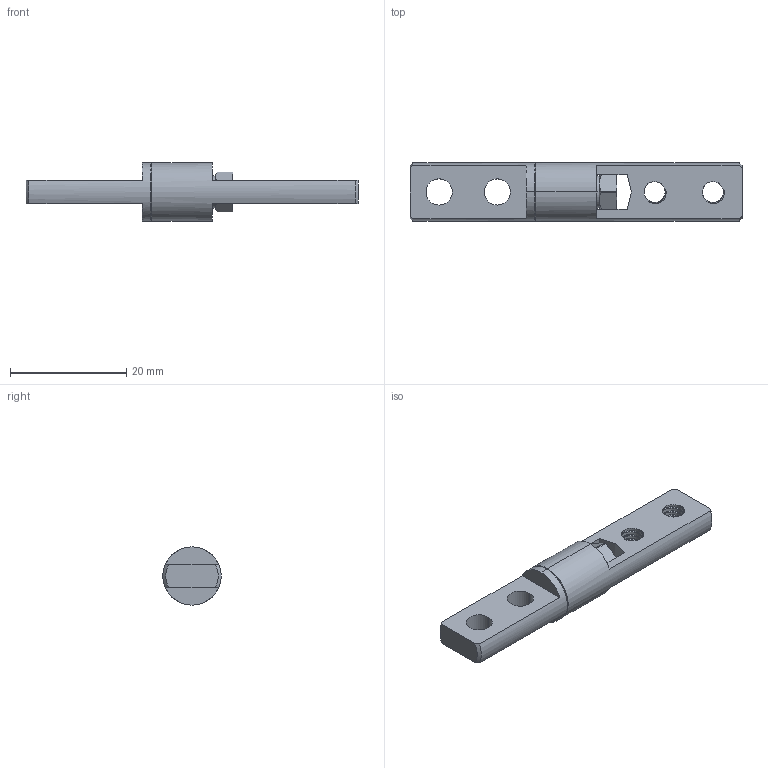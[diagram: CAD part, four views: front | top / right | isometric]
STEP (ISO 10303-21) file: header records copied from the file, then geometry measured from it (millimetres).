
FILE_DESCRIPTION (( 'STEP AP203' ), '1' );
FILE_NAME ('XG11-074-2.STEP', '2025-07-21T07:39:42', ( '微软用户' ), ( '微软中国' ), 'SwSTEP 2.0', 'SolidWorks 2024', '' );
FILE_SCHEMA (( 'CONFIG_CONTROL_DESIGN' ));
Length unit declared in the file: millimetre
Products named in the file (1): XG11-074-2
Bounding box: 57 x 10 x 10 mm (x, y, z)
Volume: 2444.2 mm3; surface area: 1947.5 mm2
Topology: 1 solids, 1 shells, 76 faces, 217 edges, 141 vertices
Faces by surface type: cylinder 39, plane 21, bspline 6, cone 6, torus 4
Entity records: 8097 total; most frequent: CARTESIAN_POINT 6167, ORIENTED_EDGE 434, DIRECTION 346, EDGE_CURVE 217, VERTEX_POINT 141, AXIS2_PLACEMENT_3D 130, EDGE_LOOP 88, VECTOR 86
